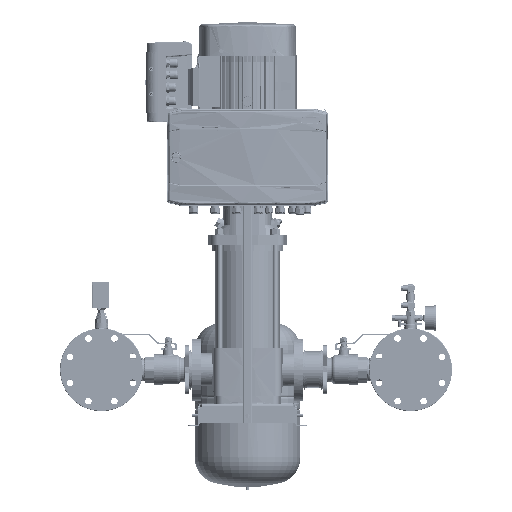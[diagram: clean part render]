
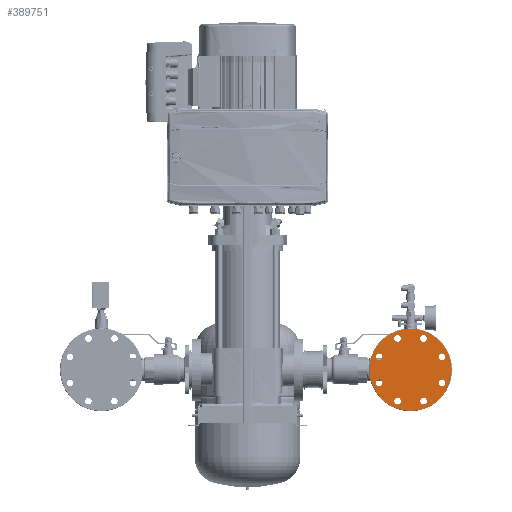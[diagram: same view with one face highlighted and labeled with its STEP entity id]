
A CAD part, left-side view. The second image highlights one B-rep face of the part: STEP entity #389751.
In plain terms, the highlighted planar face has unit normal (-1, 0, 0) as drawn and (1, 0, 0) by its records, which use the part's own axes.
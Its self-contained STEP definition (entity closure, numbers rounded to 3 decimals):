
#389145=CARTESIAN_POINT('Vertex',(20.,-42.34,78.834)) ;
#389150=CARTESIAN_POINT('Axis2P3D Location',(20.,-34.442,83.149)) ;
#389154=CARTESIAN_POINT('Vertex',(20.,-26.543,87.464)) ;
#389176=CARTESIAN_POINT('Axis2P3D Location',(20.,-34.442,83.149)) ;
#389202=CARTESIAN_POINT('Vertex',(20.,25.806,85.683)) ;
#389207=CARTESIAN_POINT('Axis2P3D Location',(20.,34.442,83.149)) ;
#389211=CARTESIAN_POINT('Vertex',(20.,43.077,80.615)) ;
#389233=CARTESIAN_POINT('Axis2P3D Location',(20.,34.442,83.149)) ;
#389259=CARTESIAN_POINT('Vertex',(20.,78.834,42.34)) ;
#389264=CARTESIAN_POINT('Axis2P3D Location',(20.,83.149,34.442)) ;
#389268=CARTESIAN_POINT('Vertex',(20.,87.464,26.543)) ;
#389290=CARTESIAN_POINT('Axis2P3D Location',(20.,83.149,34.442)) ;
#389316=CARTESIAN_POINT('Vertex',(20.,85.683,-25.806)) ;
#389321=CARTESIAN_POINT('Axis2P3D Location',(20.,83.149,-34.442)) ;
#389325=CARTESIAN_POINT('Vertex',(20.,80.615,-43.077)) ;
#389347=CARTESIAN_POINT('Axis2P3D Location',(20.,83.149,-34.442)) ;
#389373=CARTESIAN_POINT('Vertex',(20.,42.34,-78.834)) ;
#389378=CARTESIAN_POINT('Axis2P3D Location',(20.,34.442,-83.149)) ;
#389382=CARTESIAN_POINT('Vertex',(20.,26.543,-87.464)) ;
#389404=CARTESIAN_POINT('Axis2P3D Location',(20.,34.442,-83.149)) ;
#389430=CARTESIAN_POINT('Vertex',(20.,-25.806,-85.683)) ;
#389435=CARTESIAN_POINT('Axis2P3D Location',(20.,-34.442,-83.149)) ;
#389439=CARTESIAN_POINT('Vertex',(20.,-43.077,-80.615)) ;
#389461=CARTESIAN_POINT('Axis2P3D Location',(20.,-34.442,-83.149)) ;
#389487=CARTESIAN_POINT('Vertex',(20.,-78.834,-42.34)) ;
#389492=CARTESIAN_POINT('Axis2P3D Location',(20.,-83.149,-34.442)) ;
#389496=CARTESIAN_POINT('Vertex',(20.,-87.464,-26.543)) ;
#389518=CARTESIAN_POINT('Axis2P3D Location',(20.,-83.149,-34.442)) ;
#389544=CARTESIAN_POINT('Vertex',(20.,-85.683,25.806)) ;
#389549=CARTESIAN_POINT('Axis2P3D Location',(20.,-83.149,34.442)) ;
#389553=CARTESIAN_POINT('Vertex',(20.,-80.615,43.077)) ;
#389575=CARTESIAN_POINT('Axis2P3D Location',(20.,-83.149,34.442)) ;
#389696=CARTESIAN_POINT('Axis2P3D Location',(20.,0.,0.)) ;
#389701=CARTESIAN_POINT('Axis2P3D Location',(20.,0.,0.)) ;
#389705=CARTESIAN_POINT('Vertex',(20.,-109.,0.)) ;
#389707=CARTESIAN_POINT('Vertex',(20.,109.,0.)) ;
#389710=CARTESIAN_POINT('Axis2P3D Location',(20.,0.,0.)) ;
#389151=DIRECTION('Axis2P3D Direction',(1.,0.,-0.)) ;
#389177=DIRECTION('Axis2P3D Direction',(1.,0.,-0.)) ;
#389208=DIRECTION('Axis2P3D Direction',(1.,-0.,0.)) ;
#389234=DIRECTION('Axis2P3D Direction',(1.,-0.,0.)) ;
#389265=DIRECTION('Axis2P3D Direction',(1.,0.,0.)) ;
#389291=DIRECTION('Axis2P3D Direction',(1.,0.,0.)) ;
#389322=DIRECTION('Axis2P3D Direction',(1.,0.,0.)) ;
#389348=DIRECTION('Axis2P3D Direction',(1.,0.,0.)) ;
#389379=DIRECTION('Axis2P3D Direction',(1.,0.,0.)) ;
#389405=DIRECTION('Axis2P3D Direction',(1.,0.,0.)) ;
#389436=DIRECTION('Axis2P3D Direction',(1.,0.,0.)) ;
#389462=DIRECTION('Axis2P3D Direction',(1.,0.,0.)) ;
#389493=DIRECTION('Axis2P3D Direction',(1.,0.,-0.)) ;
#389519=DIRECTION('Axis2P3D Direction',(1.,0.,-0.)) ;
#389550=DIRECTION('Axis2P3D Direction',(1.,0.,-0.)) ;
#389576=DIRECTION('Axis2P3D Direction',(1.,0.,-0.)) ;
#389697=DIRECTION('Axis2P3D Direction',(1.,0.,0.)) ;
#389698=DIRECTION('Axis2P3D XDirection',(0.,1.,0.)) ;
#389702=DIRECTION('Axis2P3D Direction',(1.,0.,0.)) ;
#389711=DIRECTION('Axis2P3D Direction',(1.,0.,0.)) ;
#389152=AXIS2_PLACEMENT_3D('Circle Axis2P3D',#389150,#389151,$) ;
#389178=AXIS2_PLACEMENT_3D('Circle Axis2P3D',#389176,#389177,$) ;
#389209=AXIS2_PLACEMENT_3D('Circle Axis2P3D',#389207,#389208,$) ;
#389235=AXIS2_PLACEMENT_3D('Circle Axis2P3D',#389233,#389234,$) ;
#389266=AXIS2_PLACEMENT_3D('Circle Axis2P3D',#389264,#389265,$) ;
#389292=AXIS2_PLACEMENT_3D('Circle Axis2P3D',#389290,#389291,$) ;
#389323=AXIS2_PLACEMENT_3D('Circle Axis2P3D',#389321,#389322,$) ;
#389349=AXIS2_PLACEMENT_3D('Circle Axis2P3D',#389347,#389348,$) ;
#389380=AXIS2_PLACEMENT_3D('Circle Axis2P3D',#389378,#389379,$) ;
#389406=AXIS2_PLACEMENT_3D('Circle Axis2P3D',#389404,#389405,$) ;
#389437=AXIS2_PLACEMENT_3D('Circle Axis2P3D',#389435,#389436,$) ;
#389463=AXIS2_PLACEMENT_3D('Circle Axis2P3D',#389461,#389462,$) ;
#389494=AXIS2_PLACEMENT_3D('Circle Axis2P3D',#389492,#389493,$) ;
#389520=AXIS2_PLACEMENT_3D('Circle Axis2P3D',#389518,#389519,$) ;
#389551=AXIS2_PLACEMENT_3D('Circle Axis2P3D',#389549,#389550,$) ;
#389577=AXIS2_PLACEMENT_3D('Circle Axis2P3D',#389575,#389576,$) ;
#389699=AXIS2_PLACEMENT_3D('Plane Axis2P3D',#389696,#389697,#389698) ;
#389703=AXIS2_PLACEMENT_3D('Circle Axis2P3D',#389701,#389702,$) ;
#389712=AXIS2_PLACEMENT_3D('Circle Axis2P3D',#389710,#389711,$) ;
#389153=CIRCLE('generated circle',#389152,9.) ;
#389179=CIRCLE('generated circle',#389178,9.) ;
#389210=CIRCLE('generated circle',#389209,9.) ;
#389236=CIRCLE('generated circle',#389235,9.) ;
#389267=CIRCLE('generated circle',#389266,9.) ;
#389293=CIRCLE('generated circle',#389292,9.) ;
#389324=CIRCLE('generated circle',#389323,9.) ;
#389350=CIRCLE('generated circle',#389349,9.) ;
#389381=CIRCLE('generated circle',#389380,9.) ;
#389407=CIRCLE('generated circle',#389406,9.) ;
#389438=CIRCLE('generated circle',#389437,9.) ;
#389464=CIRCLE('generated circle',#389463,9.) ;
#389495=CIRCLE('generated circle',#389494,9.) ;
#389521=CIRCLE('generated circle',#389520,9.) ;
#389552=CIRCLE('generated circle',#389551,9.) ;
#389578=CIRCLE('generated circle',#389577,9.) ;
#389704=CIRCLE('generated circle',#389703,109.) ;
#389713=CIRCLE('generated circle',#389712,109.) ;
#389700=PLANE('',#389699) ;
#389722=FACE_BOUND('',#389719,.T.) ;
#389726=FACE_BOUND('',#389723,.T.) ;
#389730=FACE_BOUND('',#389727,.T.) ;
#389734=FACE_BOUND('',#389731,.T.) ;
#389738=FACE_BOUND('',#389735,.T.) ;
#389742=FACE_BOUND('',#389739,.T.) ;
#389746=FACE_BOUND('',#389743,.T.) ;
#389750=FACE_BOUND('',#389747,.T.) ;
#389156=EDGE_CURVE('',#389146,#389155,#389153,.T.) ;
#389180=EDGE_CURVE('',#389155,#389146,#389179,.T.) ;
#389213=EDGE_CURVE('',#389203,#389212,#389210,.T.) ;
#389237=EDGE_CURVE('',#389212,#389203,#389236,.T.) ;
#389270=EDGE_CURVE('',#389260,#389269,#389267,.T.) ;
#389294=EDGE_CURVE('',#389269,#389260,#389293,.T.) ;
#389327=EDGE_CURVE('',#389317,#389326,#389324,.T.) ;
#389351=EDGE_CURVE('',#389326,#389317,#389350,.T.) ;
#389384=EDGE_CURVE('',#389374,#389383,#389381,.T.) ;
#389408=EDGE_CURVE('',#389383,#389374,#389407,.T.) ;
#389441=EDGE_CURVE('',#389431,#389440,#389438,.T.) ;
#389465=EDGE_CURVE('',#389440,#389431,#389464,.T.) ;
#389498=EDGE_CURVE('',#389488,#389497,#389495,.T.) ;
#389522=EDGE_CURVE('',#389497,#389488,#389521,.T.) ;
#389555=EDGE_CURVE('',#389545,#389554,#389552,.T.) ;
#389579=EDGE_CURVE('',#389554,#389545,#389578,.T.) ;
#389709=EDGE_CURVE('',#389706,#389708,#389704,.T.) ;
#389714=EDGE_CURVE('',#389708,#389706,#389713,.T.) ;
#389716=ORIENTED_EDGE('',*,*,#389709,.T.) ;
#389717=ORIENTED_EDGE('',*,*,#389714,.T.) ;
#389720=ORIENTED_EDGE('',*,*,#389213,.F.) ;
#389721=ORIENTED_EDGE('',*,*,#389237,.F.) ;
#389724=ORIENTED_EDGE('',*,*,#389180,.F.) ;
#389725=ORIENTED_EDGE('',*,*,#389156,.F.) ;
#389728=ORIENTED_EDGE('',*,*,#389270,.F.) ;
#389729=ORIENTED_EDGE('',*,*,#389294,.F.) ;
#389732=ORIENTED_EDGE('',*,*,#389327,.F.) ;
#389733=ORIENTED_EDGE('',*,*,#389351,.F.) ;
#389736=ORIENTED_EDGE('',*,*,#389384,.F.) ;
#389737=ORIENTED_EDGE('',*,*,#389408,.F.) ;
#389740=ORIENTED_EDGE('',*,*,#389441,.F.) ;
#389741=ORIENTED_EDGE('',*,*,#389465,.F.) ;
#389744=ORIENTED_EDGE('',*,*,#389498,.F.) ;
#389745=ORIENTED_EDGE('',*,*,#389522,.F.) ;
#389748=ORIENTED_EDGE('',*,*,#389555,.F.) ;
#389749=ORIENTED_EDGE('',*,*,#389579,.F.) ;
#389715=EDGE_LOOP('',(#389716,#389717)) ;
#389719=EDGE_LOOP('',(#389720,#389721)) ;
#389723=EDGE_LOOP('',(#389724,#389725)) ;
#389727=EDGE_LOOP('',(#389728,#389729)) ;
#389731=EDGE_LOOP('',(#389732,#389733)) ;
#389735=EDGE_LOOP('',(#389736,#389737)) ;
#389739=EDGE_LOOP('',(#389740,#389741)) ;
#389743=EDGE_LOOP('',(#389744,#389745)) ;
#389747=EDGE_LOOP('',(#389748,#389749)) ;
#389146=VERTEX_POINT('',#389145) ;
#389155=VERTEX_POINT('',#389154) ;
#389203=VERTEX_POINT('',#389202) ;
#389212=VERTEX_POINT('',#389211) ;
#389260=VERTEX_POINT('',#389259) ;
#389269=VERTEX_POINT('',#389268) ;
#389317=VERTEX_POINT('',#389316) ;
#389326=VERTEX_POINT('',#389325) ;
#389374=VERTEX_POINT('',#389373) ;
#389383=VERTEX_POINT('',#389382) ;
#389431=VERTEX_POINT('',#389430) ;
#389440=VERTEX_POINT('',#389439) ;
#389488=VERTEX_POINT('',#389487) ;
#389497=VERTEX_POINT('',#389496) ;
#389545=VERTEX_POINT('',#389544) ;
#389554=VERTEX_POINT('',#389553) ;
#389706=VERTEX_POINT('',#389705) ;
#389708=VERTEX_POINT('',#389707) ;
#389751=ADVANCED_FACE('PartBody',(#389718,#389722,#389726,#389730,#389734,#389738,#389742,#389746,#389750),#389700,.T.) ;
#389718=FACE_OUTER_BOUND('',#389715,.T.) ;
